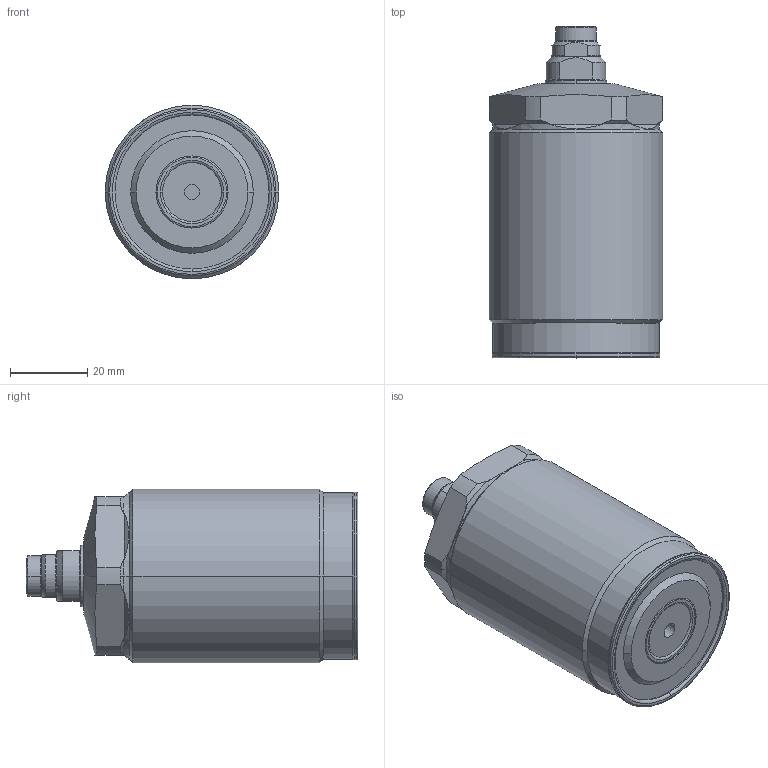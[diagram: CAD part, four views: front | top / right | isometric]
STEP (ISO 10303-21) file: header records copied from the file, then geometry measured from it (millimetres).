
FILE_DESCRIPTION(/* description */ (''),/* implementation_level */ '2;1');
FILE_NAME(/* name */ 'TSC45-M.stp',/* time_stamp */ '2025-01-10T15:26:08+08:00',/* author */ (''),/* organization */ (''),/* preprocessor_version */ 'ST-DEVELOPER v16.7',/* originating_system */ 'SIEMENS PLM Software NX 12.0',/* authorisation */ '');
FILE_SCHEMA (('AUTOMOTIVE_DESIGN { 1 0 10303 214 3 1 1 1 }'));
Length unit declared in the file: millimetre
Products named in the file (11): XLC-M10_Oring166; XLC-M10SP_pin167; XLC-M10SP_contactbolt168; XLC-M10SP_pad169; XLC-M10_Oring969170; TSC45-M-001171; TSC45-M-03172; TSC45-M-02173; TSC45-M-0015; TSC45-M-04175; TSC45-M_stp
Assembly tree (10 placements, depth 3):
  TSC45-M_stp
    TSC45-M-02173
    TSC45-M-03172
    TSC45-M-04175
      XLC-M10_Oring969170
    TSC45-M-001171
    TSC45-M-0015
      XLC-M10SP_pad169
      XLC-M10SP_contactbolt168
      XLC-M10SP_pin167
      XLC-M10_Oring166
Bounding box: 45 x 86 x 45 mm (x, y, z)
Volume: 106765.4 mm3; surface area: 17551.3 mm2
Topology: 8 solids, 8 shells, 199 faces, 445 edges, 274 vertices
Faces by surface type: cylinder 62, plane 46, torus 44, cone 41, sphere 6
Full cylindrical faces by diameter (mm): 4 x1
Entity records: 6234 total; most frequent: CARTESIAN_POINT 1420, DIRECTION 1068, ORIENTED_EDGE 888, AXIS2_PLACEMENT_3D 468, EDGE_CURVE 444, VERTEX_POINT 274, CIRCLE 258, EDGE_LOOP 226
